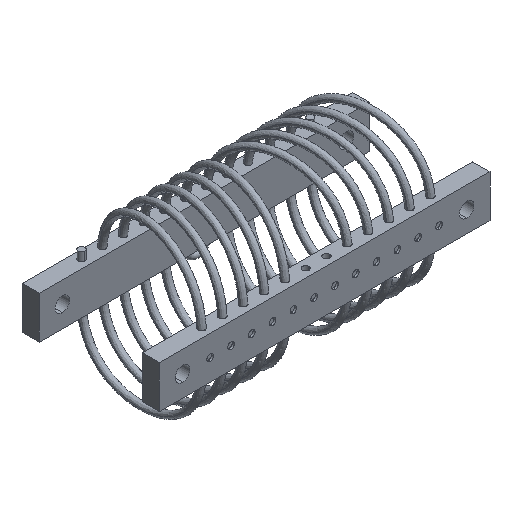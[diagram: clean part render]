
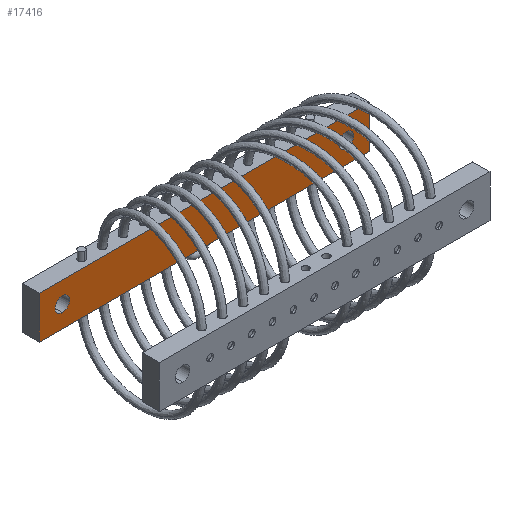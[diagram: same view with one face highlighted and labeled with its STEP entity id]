
A CAD part, isometric view. The second image highlights one B-rep face of the part: STEP entity #17416.
In plain terms, the highlighted planar face has unit normal (0, -1, 0).
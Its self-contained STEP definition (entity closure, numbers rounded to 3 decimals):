
#233 = ORIENTED_EDGE ( 'NONE', *, *, #7648, .F. ) ;
#580 = LINE ( 'NONE', #7101, #15739 ) ;
#1100 = VERTEX_POINT ( 'NONE', #8847 ) ;
#1307 = DIRECTION ( 'NONE',  ( 0., 1., 0. ) ) ;
#1321 = DIRECTION ( 'NONE',  ( 0., 1., 0. ) ) ;
#1504 = CIRCLE ( 'NONE', #3860, 1.75 ) ;
#1545 = LINE ( 'NONE', #5752, #16653 ) ;
#2152 = AXIS2_PLACEMENT_3D ( 'NONE', #14533, #5745, #16010 ) ;
#2581 = FACE_BOUND ( 'NONE', #3378, .T. ) ;
#2710 = VECTOR ( 'NONE', #13688, 1000. ) ;
#2989 = EDGE_CURVE ( 'NONE', #3947, #11275, #18088, .T. ) ;
#3231 = EDGE_CURVE ( 'NONE', #12906, #11530, #5959, .T. ) ;
#3300 = CARTESIAN_POINT ( 'NONE',  ( 39.75, 12.4, -5.1 ) ) ;
#3378 = EDGE_LOOP ( 'NONE', ( #7882, #11771 ) ) ;
#3860 = AXIS2_PLACEMENT_3D ( 'NONE', #10087, #1321, #11564 ) ;
#3947 = VERTEX_POINT ( 'NONE', #18756 ) ;
#4466 = CARTESIAN_POINT ( 'NONE',  ( 34.15, 12.4, -1.75 ) ) ;
#4594 = DIRECTION ( 'NONE',  ( 0., 0., 1. ) ) ;
#4718 = VECTOR ( 'NONE', #16639, 1000. ) ;
#4788 = AXIS2_PLACEMENT_3D ( 'NONE', #17747, #13323, #8965 ) ;
#5266 = EDGE_CURVE ( 'NONE', #1100, #16474, #18939, .T. ) ;
#5745 = DIRECTION ( 'NONE',  ( 0., 1., 0. ) ) ;
#5752 = CARTESIAN_POINT ( 'NONE',  ( -39.75, 12.4, -5.1 ) ) ;
#5959 = CIRCLE ( 'NONE', #15194, 1.75 ) ;
#6564 = LINE ( 'NONE', #16575, #2710 ) ;
#6932 = FACE_BOUND ( 'NONE', #11531, .T. ) ;
#7101 = CARTESIAN_POINT ( 'NONE',  ( 39.75, 12.4, -5.1 ) ) ;
#7449 = CARTESIAN_POINT ( 'NONE',  ( -34.15, 12.4, 1.75 ) ) ;
#7465 = CARTESIAN_POINT ( 'NONE',  ( -34.15, 12.4, 0. ) ) ;
#7648 = EDGE_CURVE ( 'NONE', #18777, #8429, #6564, .T. ) ;
#7856 = CARTESIAN_POINT ( 'NONE',  ( 39.75, 12.4, 5.1 ) ) ;
#7882 = ORIENTED_EDGE ( 'NONE', *, *, #3231, .T. ) ;
#7948 = ORIENTED_EDGE ( 'NONE', *, *, #2989, .T. ) ;
#7993 = EDGE_CURVE ( 'NONE', #8429, #1100, #1545, .T. ) ;
#8043 = CARTESIAN_POINT ( 'NONE',  ( -34.15, 12.4, -1.75 ) ) ;
#8429 = VERTEX_POINT ( 'NONE', #14939 ) ;
#8847 = CARTESIAN_POINT ( 'NONE',  ( -39.75, 12.4, 5.1 ) ) ;
#8934 = DIRECTION ( 'NONE',  ( 0., 0., 1. ) ) ;
#8965 = DIRECTION ( 'NONE',  ( 0., 0., -1. ) ) ;
#10078 = CARTESIAN_POINT ( 'NONE',  ( -34.15, 12.4, 0. ) ) ;
#10087 = CARTESIAN_POINT ( 'NONE',  ( 34.15, 12.4, 0. ) ) ;
#11275 = VERTEX_POINT ( 'NONE', #4466 ) ;
#11530 = VERTEX_POINT ( 'NONE', #8043 ) ;
#11531 = EDGE_LOOP ( 'NONE', ( #7948, #13020 ) ) ;
#11555 = DIRECTION ( 'NONE',  ( 0., 0., 1. ) ) ;
#11564 = DIRECTION ( 'NONE',  ( 0., 0., 1. ) ) ;
#11771 = ORIENTED_EDGE ( 'NONE', *, *, #16181, .T. ) ;
#12599 = EDGE_CURVE ( 'NONE', #11275, #3947, #1504, .T. ) ;
#12906 = VERTEX_POINT ( 'NONE', #7449 ) ;
#13020 = ORIENTED_EDGE ( 'NONE', *, *, #12599, .T. ) ;
#13323 = DIRECTION ( 'NONE',  ( 0., -1., 0. ) ) ;
#13688 = DIRECTION ( 'NONE',  ( -1., 0., 0. ) ) ;
#14533 = CARTESIAN_POINT ( 'NONE',  ( 34.15, 12.4, 0. ) ) ;
#14756 = ORIENTED_EDGE ( 'NONE', *, *, #7993, .F. ) ;
#14939 = CARTESIAN_POINT ( 'NONE',  ( -39.75, 12.4, -5.1 ) ) ;
#14965 = CARTESIAN_POINT ( 'NONE',  ( 39.75, 12.4, 5.1 ) ) ;
#15194 = AXIS2_PLACEMENT_3D ( 'NONE', #7465, #17718, #8934 ) ;
#15229 = EDGE_CURVE ( 'NONE', #16474, #18777, #580, .T. ) ;
#15270 = ORIENTED_EDGE ( 'NONE', *, *, #15229, .F. ) ;
#15739 = VECTOR ( 'NONE', #17360, 1000. ) ;
#16010 = DIRECTION ( 'NONE',  ( 0., 0., 1. ) ) ;
#16181 = EDGE_CURVE ( 'NONE', #11530, #12906, #17564, .T. ) ;
#16283 = PLANE ( 'NONE',  #4788 ) ;
#16316 = AXIS2_PLACEMENT_3D ( 'NONE', #10078, #1307, #11555 ) ;
#16435 = EDGE_LOOP ( 'NONE', ( #14756, #233, #15270, #16703 ) ) ;
#16474 = VERTEX_POINT ( 'NONE', #14965 ) ;
#16575 = CARTESIAN_POINT ( 'NONE',  ( 39.75, 12.4, -5.1 ) ) ;
#16639 = DIRECTION ( 'NONE',  ( 1., 0., 0. ) ) ;
#16653 = VECTOR ( 'NONE', #4594, 1000. ) ;
#16703 = ORIENTED_EDGE ( 'NONE', *, *, #5266, .F. ) ;
#17360 = DIRECTION ( 'NONE',  ( 0., 0., -1. ) ) ;
#17416 = ADVANCED_FACE ( 'NONE', ( #6932, #2581, #18152 ), #16283, .T. ) ;
#17564 = CIRCLE ( 'NONE', #16316, 1.75 ) ;
#17718 = DIRECTION ( 'NONE',  ( 0., 1., 0. ) ) ;
#17747 = CARTESIAN_POINT ( 'NONE',  ( 0., 12.4, 0. ) ) ;
#18088 = CIRCLE ( 'NONE', #2152, 1.75 ) ;
#18152 = FACE_OUTER_BOUND ( 'NONE', #16435, .T. ) ;
#18756 = CARTESIAN_POINT ( 'NONE',  ( 34.15, 12.4, 1.75 ) ) ;
#18777 = VERTEX_POINT ( 'NONE', #3300 ) ;
#18939 = LINE ( 'NONE', #7856, #4718 ) ;
